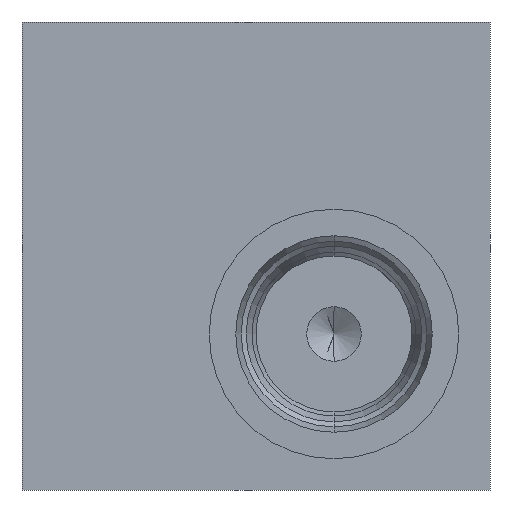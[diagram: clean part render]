
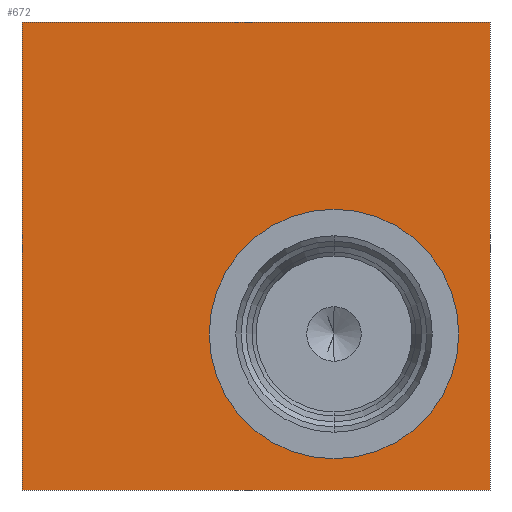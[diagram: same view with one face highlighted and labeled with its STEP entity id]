
A CAD part, front view. The second image highlights one B-rep face of the part: STEP entity #672.
In plain terms, the highlighted planar face has unit normal (0, -1, 0).
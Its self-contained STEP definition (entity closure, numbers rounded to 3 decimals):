
#1 = DIRECTION ( 'NONE',  ( 0., -1., 0. ) ) ;
#82 = CARTESIAN_POINT ( 'NONE',  ( 60., 0., 60. ) ) ;
#139 = EDGE_CURVE ( 'NONE', #1802, #587, #1249, .T. ) ;
#210 = ORIENTED_EDGE ( 'NONE', *, *, #397, .F. ) ;
#217 = CIRCLE ( 'NONE', #639, 16. ) ;
#224 = EDGE_CURVE ( 'NONE', #1312, #587, #526, .T. ) ;
#281 = DIRECTION ( 'NONE',  ( 1., 0., 0. ) ) ;
#331 = PLANE ( 'NONE',  #616 ) ;
#333 = CARTESIAN_POINT ( 'NONE',  ( 0., 0., 60. ) ) ;
#347 = DIRECTION ( 'NONE',  ( 1., 0., 0. ) ) ;
#397 = EDGE_CURVE ( 'NONE', #1554, #1530, #1038, .T. ) ;
#409 = ORIENTED_EDGE ( 'NONE', *, *, #463, .T. ) ;
#421 = VERTEX_POINT ( 'NONE', #333 ) ;
#463 = EDGE_CURVE ( 'NONE', #421, #1312, #640, .T. ) ;
#484 = DIRECTION ( 'NONE',  ( 0., 1., 0. ) ) ;
#526 = LINE ( 'NONE', #1790, #1869 ) ;
#530 = FACE_BOUND ( 'NONE', #935, .T. ) ;
#560 = DIRECTION ( 'NONE',  ( 0., 0., -1. ) ) ;
#587 = VERTEX_POINT ( 'NONE', #940 ) ;
#616 = AXIS2_PLACEMENT_3D ( 'NONE', #768, #484, #1692 ) ;
#625 = ORIENTED_EDGE ( 'NONE', *, *, #139, .F. ) ;
#639 = AXIS2_PLACEMENT_3D ( 'NONE', #1422, #1707, #1856 ) ;
#640 = LINE ( 'NONE', #1931, #1527 ) ;
#665 = VECTOR ( 'NONE', #560, 1000. ) ;
#672 = ADVANCED_FACE ( 'NONE', ( #530, #1172 ), #331, .F. ) ;
#686 = EDGE_CURVE ( 'NONE', #1530, #1554, #217, .T. ) ;
#768 = CARTESIAN_POINT ( 'NONE',  ( 0., 0., 60. ) ) ;
#806 = ORIENTED_EDGE ( 'NONE', *, *, #224, .T. ) ;
#829 = CARTESIAN_POINT ( 'NONE',  ( 0., 0., 0. ) ) ;
#935 = EDGE_LOOP ( 'NONE', ( #210, #1674 ) ) ;
#940 = CARTESIAN_POINT ( 'NONE',  ( 60., 0., 0. ) ) ;
#989 = LINE ( 'NONE', #1810, #1315 ) ;
#1038 = CIRCLE ( 'NONE', #1844, 16. ) ;
#1165 = EDGE_LOOP ( 'NONE', ( #806, #625, #1529, #409 ) ) ;
#1172 = FACE_OUTER_BOUND ( 'NONE', #1165, .T. ) ;
#1179 = EDGE_CURVE ( 'NONE', #421, #1802, #989, .T. ) ;
#1249 = LINE ( 'NONE', #1319, #665 ) ;
#1312 = VERTEX_POINT ( 'NONE', #829 ) ;
#1315 = VECTOR ( 'NONE', #347, 1000. ) ;
#1319 = CARTESIAN_POINT ( 'NONE',  ( 60., 0., 60. ) ) ;
#1363 = CARTESIAN_POINT ( 'NONE',  ( 40., 0., 36. ) ) ;
#1373 = DIRECTION ( 'NONE',  ( 0., 0., -1. ) ) ;
#1422 = CARTESIAN_POINT ( 'NONE',  ( 40., 0., 20. ) ) ;
#1527 = VECTOR ( 'NONE', #1795, 1000. ) ;
#1529 = ORIENTED_EDGE ( 'NONE', *, *, #1179, .F. ) ;
#1530 = VERTEX_POINT ( 'NONE', #1363 ) ;
#1554 = VERTEX_POINT ( 'NONE', #1803 ) ;
#1674 = ORIENTED_EDGE ( 'NONE', *, *, #686, .F. ) ;
#1692 = DIRECTION ( 'NONE',  ( 0., 0., 1. ) ) ;
#1707 = DIRECTION ( 'NONE',  ( 0., -1., 0. ) ) ;
#1772 = CARTESIAN_POINT ( 'NONE',  ( 40., 0., 20. ) ) ;
#1790 = CARTESIAN_POINT ( 'NONE',  ( 0., 0., 0. ) ) ;
#1795 = DIRECTION ( 'NONE',  ( 0., 0., -1. ) ) ;
#1802 = VERTEX_POINT ( 'NONE', #82 ) ;
#1803 = CARTESIAN_POINT ( 'NONE',  ( 40., 0., 4. ) ) ;
#1810 = CARTESIAN_POINT ( 'NONE',  ( 0., 0., 60. ) ) ;
#1844 = AXIS2_PLACEMENT_3D ( 'NONE', #1772, #1, #1373 ) ;
#1856 = DIRECTION ( 'NONE',  ( 0., 0., -1. ) ) ;
#1869 = VECTOR ( 'NONE', #281, 1000. ) ;
#1931 = CARTESIAN_POINT ( 'NONE',  ( 0., 0., 60. ) ) ;
